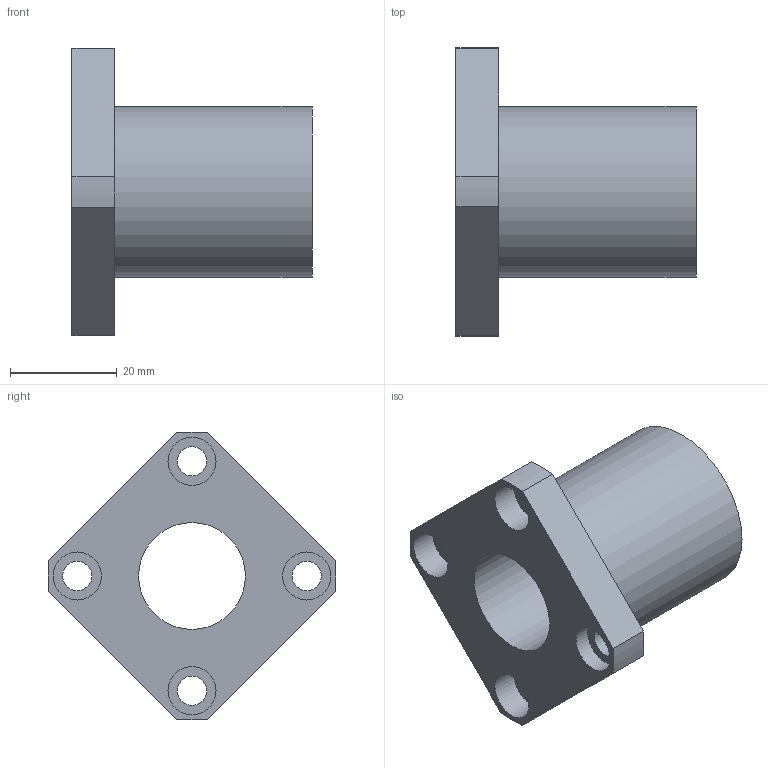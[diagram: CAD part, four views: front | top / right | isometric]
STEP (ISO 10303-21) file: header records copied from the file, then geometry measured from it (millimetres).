
FILE_DESCRIPTION( ( 'STEP AP203' ), '1' );
FILE_NAME( 'p:/temp/worker_4/temp/exporttempdir_3320_2265_e12AY/format_0/LMEK20UU.stp', '2020-05-07T05:46:46', ( 'License CC BY-ND 4.0' ), ( 'CADENAS' ), ' ', 'PARTsolutions', ' ' );
FILE_SCHEMA( ( 'CONFIG_CONTROL_DESIGN' ) );
Length unit declared in the file: millimetre
Products named in the file (1): _LMEK20UU
Bounding box: 45 x 53.97 x 53.97 mm (x, y, z)
Volume: 27996.9 mm3; surface area: 11220.4 mm2
Topology: 1 solids, 1 shells, 25 faces, 55 edges, 37 vertices
Faces by surface type: cylinder 14, plane 11
Full cylindrical faces by diameter (mm): 5.5 x4, 9 x4, 20 x1, 32 x1
Entity records: 710 total; most frequent: DIRECTION 124, CARTESIAN_POINT 106, ORIENTED_EDGE 88, AXIS2_PLACEMENT_3D 54, EDGE_LOOP 50, EDGE_CURVE 44, VERTEX_POINT 36, FACE_OUTER_BOUND 35
